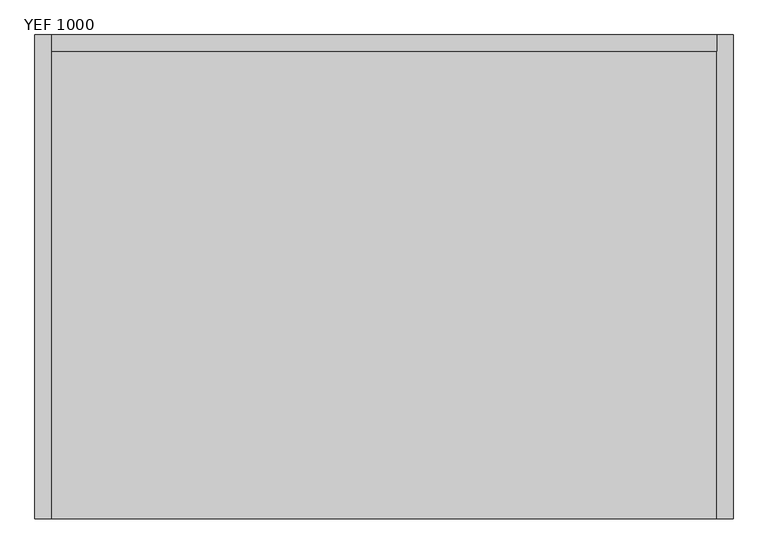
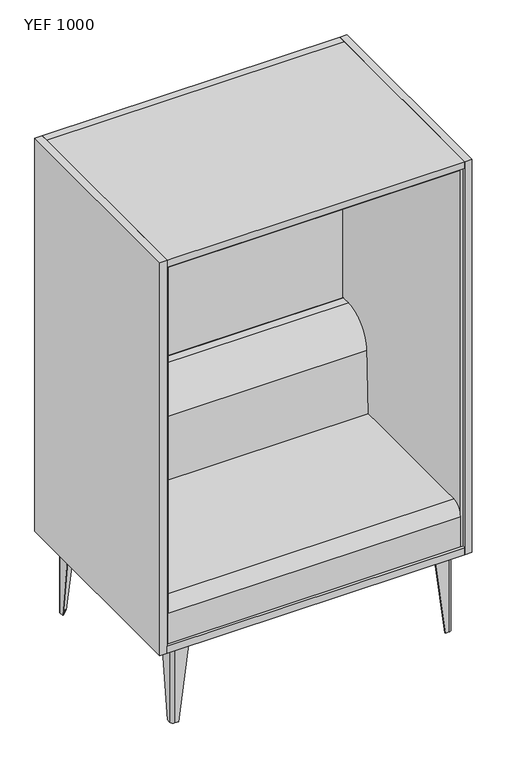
"""IFC4 building model written with IfcOpenShell, lengths in millimetres: furniture geometry, Mobiliário_Mobiliário de Escritório_LinhaYoung_Sofa Enclosure Fechado (Aço) - YEF_Marelli : YEF 1000."""

from ifc_helpers import new_model, si_unit, point, frame, frame_2d, origin, origin_with_axes, place, context, project, spatial, polyline, circle_curve, trimmed, segment, composite_curve, outline, extrude, source, transform, mapped, element, save
from ifc_brep_helpers import plane_surface, cylinder_surface, revolved_surface, advanced_brep


def yef_1000_8515219d(model_context):
    return source(origin(), model_context, "Body", "SolidModel", [
        advanced_brep(
        [(20.0, 75.0, 280.0), (20.0, 25.0, 280.0), (30.0, 15.0, 280.0), (80.0, 15.0, 280.0), (80.0, 18.0, 280.0), (30.0, 18.0, 280.0), (23.0, 25.0, 280.0), (23.0, 75.0, 280.0), (20.0, 39.0, 0.0), (23.0, 39.0, 0.0), (23.0, 25.0, 0.0), (30.0, 18.0, 0.0), (44.0, 18.0, 0.0), (44.0, 15.0, 0.0), (30.0, 15.0, 0.0), (20.0, 25.0, 0.0)],
        [
            (0, 1),
            (1, 2, circle_curve(frame((30.0, 25.0, 280.0), z_axis=(0.0, 0.0, 1.0), x_axis=(0.0, -1.0, 0.0)), 10.0)),
            (2, 3),
            (3, 4),
            (4, 5),
            (5, 6, circle_curve(frame((30.0, 25.0, 280.0), z_axis=(0.0, 0.0, -1.0), x_axis=(-1.0, 0.0, 0.0)), 7.0)),
            (6, 7),
            (7, 0),
            (8, 9),
            (9, 10),
            (10, 11, circle_curve(frame((30.0, 25.0, 0.0), z_axis=(0.0, 0.0, 1.0), x_axis=(-1.0, 0.0, 0.0)), 7.0)),
            (11, 12),
            (12, 13),
            (13, 14),
            (14, 15, circle_curve(frame((30.0, 25.0, 0.0), z_axis=(0.0, 0.0, -1.0), x_axis=(0.0, -1.0, 0.0)), 10.0)),
            (15, 8),
            (15, 1),
            (0, 8),
            (14, 2),
            (13, 3),
            (12, 4),
            (11, 5),
            (10, 6),
            (9, 7),
        ],
        [
            plane_surface(frame((38.25, 33.25, 280.0), z_axis=(0.0, 0.0, 1.0), x_axis=(0.0, -1.0, 0.0))),
            plane_surface(frame((29.25, 24.25, 0.0), z_axis=(0.0, 0.0, -1.0), x_axis=(0.0, -1.0, 0.0))),
            plane_surface(frame((20.0, 32.0, 0.0), z_axis=(-1.0, 0.0, 0.0), x_axis=(0.0, -1.0, 0.0))),
            cylinder_surface(frame((30.0, 25.0, 0.0), z_axis=(0.0, 0.0, 1.0), x_axis=(0.0, -1.0, 0.0)), 10.0),
            plane_surface(frame((37.0, 15.0, 0.0), z_axis=(0.0, -1.0, 0.0), x_axis=(1.0, 0.0, 0.0))),
            plane_surface(frame((44.0, 16.5, 0.0), z_axis=(0.9918357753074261, 0.0, -0.12752174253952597), x_axis=(0.0, 1.0, 0.0))),
            plane_surface(frame((37.0, 18.0, 0.0), z_axis=(0.0, 1.0, 0.0), x_axis=(-1.0, 0.0, 0.0))),
            revolved_surface(polyline([(23.0, 25.0, 280.0), (23.0, 25.0, 0.0)]), (30.0, 25.0, 0.0), (0.0, 0.0, 1.0)),
            plane_surface(frame((23.0, 32.0, 0.0), z_axis=(1.0, 0.0, 0.0), x_axis=(0.0, 1.0, 0.0))),
            plane_surface(frame((21.5, 39.0, 0.0), z_axis=(0.0, 0.9918357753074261, -0.12752174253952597), x_axis=(-1.0, 0.0, 0.0))),
        ],
        [
            (0, [[1, 2, 3, 4, 5, 6, 7, 8]]),
            (1, [[9, 10, 11, 12, 13, 14, 15, 16]]),
            (2, [[-16, 17, -1, 18]]),
            (3, [[-15, 19, -2, -17]]),
            (4, [[-14, 20, -3, -19]]),
            (5, [[-13, 21, -4, -20]]),
            (6, [[-12, 22, -5, -21]]),
            (7, [[-11, 23, -6, -22]]),
            (8, [[-10, 24, -7, -23]]),
            (9, [[-9, -18, -8, -24]]),
        ],
    ),
        advanced_brep(
        [(980.0, 75.0, 280.0), (977.0, 75.0, 280.0), (977.0, 25.0, 280.0), (970.0, 18.0, 280.0), (920.0, 18.0, 280.0), (920.0, 15.0, 280.0), (970.0, 15.0, 280.0), (980.0, 25.0, 280.0), (980.0, 39.0, 0.0), (980.0, 25.0, 0.0), (970.0, 15.0, 0.0), (956.0, 15.0, 0.0), (956.0, 18.0, 0.0), (970.0, 18.0, 0.0), (977.0, 25.0, 0.0), (977.0, 39.0, 0.0)],
        [
            (0, 1),
            (1, 2),
            (2, 3, circle_curve(frame((970.0, 25.0, 280.0), z_axis=(0.0, 0.0, -1.0), x_axis=(0.0, -1.0, 0.0)), 7.0)),
            (3, 4),
            (4, 5),
            (5, 6),
            (6, 7, circle_curve(frame((970.0, 25.0, 280.0), z_axis=(0.0, 0.0, 1.0), x_axis=(1.0, 0.0, 0.0)), 10.0)),
            (7, 0),
            (8, 9),
            (9, 10, circle_curve(frame((970.0, 25.0, 0.0), z_axis=(0.0, 0.0, -1.0), x_axis=(1.0, 0.0, 0.0)), 10.0)),
            (10, 11),
            (11, 12),
            (12, 13),
            (13, 14, circle_curve(frame((970.0, 25.0, 0.0), z_axis=(0.0, 0.0, 1.0), x_axis=(0.0, -1.0, 0.0)), 7.0)),
            (14, 15),
            (15, 8),
            (8, 0),
            (7, 9),
            (6, 10),
            (5, 11),
            (4, 12),
            (3, 13),
            (2, 14),
            (1, 15),
        ],
        [
            plane_surface(frame((961.75, 33.25, 280.0), z_axis=(0.0, 0.0, 1.0), x_axis=(-1.0, 0.0, 0.0))),
            plane_surface(frame((970.75, 24.25, 0.0), z_axis=(0.0, 0.0, -1.0), x_axis=(-1.0, 0.0, 0.0))),
            plane_surface(frame((980.0, 32.0, 0.0), z_axis=(1.0, 0.0, 0.0), x_axis=(0.0, 1.0, 0.0))),
            cylinder_surface(frame((970.0, 25.0, 0.0), z_axis=(0.0, 0.0, 1.0), x_axis=(1.0, 0.0, 0.0)), 10.0),
            plane_surface(frame((963.0, 15.0, 0.0), z_axis=(0.0, -1.0, 0.0), x_axis=(1.0, 0.0, 0.0))),
            plane_surface(frame((956.0, 16.5, 0.0), z_axis=(-0.9918357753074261, 0.0, -0.127521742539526), x_axis=(0.0, -1.0, 0.0))),
            plane_surface(frame((963.0, 18.0, 0.0), z_axis=(0.0, 1.0, 0.0), x_axis=(-1.0, 0.0, 0.0))),
            revolved_surface(polyline([(970.0, 18.0, 280.0), (970.0, 18.0, 0.0)]), (970.0, 25.0, 0.0), (0.0, 0.0, 1.0)),
            plane_surface(frame((977.0, 32.0, 0.0), z_axis=(-1.0, 0.0, 0.0), x_axis=(0.0, -1.0, 0.0))),
            plane_surface(frame((978.5, 39.0, 0.0), z_axis=(0.0, 0.9918357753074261, -0.12752174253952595), x_axis=(-1.0, 0.0, 0.0))),
        ],
        [
            (0, [[1, 2, 3, 4, 5, 6, 7, 8]]),
            (1, [[9, 10, 11, 12, 13, 14, 15, 16]]),
            (2, [[-9, 17, -8, 18]]),
            (3, [[-10, -18, -7, 19]]),
            (4, [[-11, -19, -6, 20]]),
            (5, [[-12, -20, -5, 21]]),
            (6, [[-13, -21, -4, 22]]),
            (7, [[-14, -22, -3, 23]]),
            (8, [[-15, -23, -2, 24]]),
            (9, [[-16, -24, -1, -17]]),
        ],
    ),
        advanced_brep(
        [(20.0, 625.0, 280.0), (23.0, 625.0, 280.0), (23.0, 675.0, 280.0), (30.0, 682.0, 280.0), (80.0, 682.0, 280.0), (80.0, 685.0, 280.0), (30.0, 685.0, 280.0), (20.0, 675.0, 280.0), (20.0, 661.0, 0.0), (20.0, 675.0, 0.0), (30.0, 685.0, 0.0), (44.0, 685.0, 0.0), (44.0, 682.0, 0.0), (30.0, 682.0, 0.0), (23.0, 675.0, 0.0), (23.0, 661.0, 0.0)],
        [
            (0, 1),
            (1, 2),
            (2, 3, circle_curve(frame((30.0, 675.0, 280.0), z_axis=(0.0, 0.0, -1.0), x_axis=(0.0, 1.0, 0.0)), 7.0)),
            (3, 4),
            (4, 5),
            (5, 6),
            (6, 7, circle_curve(frame((30.0, 675.0, 280.0), z_axis=(0.0, 0.0, 1.0), x_axis=(-1.0, 0.0, 0.0)), 10.0)),
            (7, 0),
            (8, 9),
            (9, 10, circle_curve(frame((30.0, 675.0, 0.0), z_axis=(0.0, 0.0, -1.0), x_axis=(-1.0, 0.0, 0.0)), 10.0)),
            (10, 11),
            (11, 12),
            (12, 13),
            (13, 14, circle_curve(frame((30.0, 675.0, 0.0), z_axis=(0.0, 0.0, 1.0), x_axis=(0.0, 1.0, 0.0)), 7.0)),
            (14, 15),
            (15, 8),
            (8, 0),
            (7, 9),
            (6, 10),
            (5, 11),
            (4, 12),
            (3, 13),
            (2, 14),
            (1, 15),
        ],
        [
            plane_surface(frame((38.25, 666.75, 280.0), z_axis=(0.0, 0.0, 1.0), x_axis=(1.0, 0.0, 0.0))),
            plane_surface(frame((29.25, 675.75, 0.0), z_axis=(0.0, 0.0, -1.0), x_axis=(1.0, 0.0, 0.0))),
            plane_surface(frame((20.0, 668.0, 0.0), z_axis=(-1.0, 0.0, 0.0), x_axis=(0.0, -1.0, 0.0))),
            cylinder_surface(frame((30.0, 675.0, 0.0), z_axis=(0.0, 0.0, 1.0), x_axis=(-1.0, 0.0, 0.0)), 10.0),
            plane_surface(frame((37.0, 685.0, 0.0), z_axis=(0.0, 1.0, 0.0), x_axis=(-1.0, 0.0, 0.0))),
            plane_surface(frame((44.0, 683.5, 0.0), z_axis=(0.9918357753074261, 0.0, -0.12752174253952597), x_axis=(0.0, 1.0, 0.0))),
            plane_surface(frame((37.0, 682.0, 0.0), z_axis=(0.0, -1.0, 0.0), x_axis=(1.0, 0.0, 0.0))),
            revolved_surface(polyline([(30.0, 682.0, 280.0), (30.0, 682.0, 0.0)]), (30.0, 675.0, 0.0), (0.0, 0.0, 1.0)),
            plane_surface(frame((23.0, 668.0, 0.0), z_axis=(1.0, 0.0, 0.0), x_axis=(0.0, 1.0, 0.0))),
            plane_surface(frame((21.5, 661.0, 0.0), z_axis=(0.0, -0.9918357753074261, -0.127521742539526), x_axis=(1.0, 0.0, 0.0))),
        ],
        [
            (0, [[1, 2, 3, 4, 5, 6, 7, 8]]),
            (1, [[9, 10, 11, 12, 13, 14, 15, 16]]),
            (2, [[-9, 17, -8, 18]]),
            (3, [[-10, -18, -7, 19]]),
            (4, [[-11, -19, -6, 20]]),
            (5, [[-12, -20, -5, 21]]),
            (6, [[-13, -21, -4, 22]]),
            (7, [[-14, -22, -3, 23]]),
            (8, [[-15, -23, -2, 24]]),
            (9, [[-16, -24, -1, -17]]),
        ],
    ),
        advanced_brep(
        [(980.0, 625.0, 280.0), (980.0, 675.0, 280.0), (970.0, 685.0, 280.0), (920.0, 685.0, 280.0), (920.0, 682.0, 280.0), (970.0, 682.0, 280.0), (977.0, 675.0, 280.0), (977.0, 625.0, 280.0), (980.0, 661.0, 0.0), (977.0, 661.0, 0.0), (977.0, 675.0, 0.0), (970.0, 682.0, 0.0), (956.0, 682.0, 0.0), (956.0, 685.0, 0.0), (970.0, 685.0, 0.0), (980.0, 675.0, 0.0)],
        [
            (0, 1),
            (1, 2, circle_curve(frame((970.0, 675.0, 280.0), z_axis=(0.0, 0.0, 1.0), x_axis=(0.0, 1.0, 0.0)), 10.0)),
            (2, 3),
            (3, 4),
            (4, 5),
            (5, 6, circle_curve(frame((970.0, 675.0, 280.0), z_axis=(0.0, 0.0, -1.0), x_axis=(1.0, 0.0, 0.0)), 7.0)),
            (6, 7),
            (7, 0),
            (8, 9),
            (9, 10),
            (10, 11, circle_curve(frame((970.0, 675.0, 0.0), z_axis=(0.0, 0.0, 1.0), x_axis=(1.0, 0.0, 0.0)), 7.0)),
            (11, 12),
            (12, 13),
            (13, 14),
            (14, 15, circle_curve(frame((970.0, 675.0, 0.0), z_axis=(0.0, 0.0, -1.0), x_axis=(0.0, 1.0, 0.0)), 10.0)),
            (15, 8),
            (15, 1),
            (0, 8),
            (14, 2),
            (13, 3),
            (12, 4),
            (11, 5),
            (10, 6),
            (9, 7),
        ],
        [
            plane_surface(frame((961.75, 666.75, 280.0), z_axis=(0.0, 0.0, 1.0), x_axis=(0.0, 1.0, 0.0))),
            plane_surface(frame((970.75, 675.75, 0.0), z_axis=(0.0, 0.0, -1.0), x_axis=(0.0, 1.0, 0.0))),
            plane_surface(frame((980.0, 668.0, 0.0), z_axis=(1.0, 0.0, 0.0), x_axis=(0.0, 1.0, 0.0))),
            cylinder_surface(frame((970.0, 675.0, 0.0), z_axis=(0.0, 0.0, 1.0), x_axis=(0.0, 1.0, 0.0)), 10.0),
            plane_surface(frame((963.0, 685.0, 0.0), z_axis=(0.0, 1.0, 0.0), x_axis=(-1.0, 0.0, 0.0))),
            plane_surface(frame((956.0, 683.5, 0.0), z_axis=(-0.9918357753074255, 0.0, -0.12752174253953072), x_axis=(0.0, -1.0, 0.0))),
            plane_surface(frame((963.0, 682.0, 0.0), z_axis=(0.0, -1.0, 0.0), x_axis=(1.0, 0.0, 0.0))),
            revolved_surface(polyline([(977.0, 675.0, 280.0), (977.0, 675.0, 0.0)]), (970.0, 675.0, 0.0), (0.0, 0.0, 1.0)),
            plane_surface(frame((977.0, 668.0, 0.0), z_axis=(-1.0, 0.0, 0.0), x_axis=(0.0, -1.0, 0.0))),
            plane_surface(frame((978.5, 661.0, 0.0), z_axis=(0.0, -0.9918357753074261, -0.127521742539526), x_axis=(1.0, 0.0, 0.0))),
        ],
        [
            (0, [[1, 2, 3, 4, 5, 6, 7, 8]]),
            (1, [[9, 10, 11, 12, 13, 14, 15, 16]]),
            (2, [[-16, 17, -1, 18]]),
            (3, [[-15, 19, -2, -17]]),
            (4, [[-14, 20, -3, -19]]),
            (5, [[-13, 21, -4, -20]]),
            (6, [[-12, 22, -5, -21]]),
            (7, [[-11, 23, -6, -22]]),
            (8, [[-10, 24, -7, -23]]),
            (9, [[-9, -18, -8, -24]]),
        ],
    ),
        extrude(outline(composite_curve([segment(polyline([(23.0, 39.0), (44.0, 18.0), (30.0, 18.0)]), True, "CONTINUOUS"), segment(trimmed(circle_curve(frame_2d((30.0, 25.0)), 7.0), [point((30.0, 18.0))], [point((23.0, 25.0))], False, "CARTESIAN"), True, "CONTINUOUS"), segment(polyline([(23.0, 25.0), (23.0, 39.0)]), True, "CONTINUOUS")], self_intersect=False)), origin_with_axes(), (0.0, 0.0, 1.0), 1.0),
        extrude(outline(composite_curve([segment(polyline([(23.0, 661.0), (23.0, 675.0)]), True, "CONTINUOUS"), segment(trimmed(circle_curve(frame_2d((30.0, 675.0)), 7.0), [point((23.0, 675.0))], [point((30.0, 682.0))], False, "CARTESIAN"), True, "CONTINUOUS"), segment(polyline([(30.0, 682.0), (44.0, 682.0), (23.0, 661.0)]), True, "CONTINUOUS")], self_intersect=False)), origin_with_axes(), (0.0, 0.0, 1.0), 1.0),
        extrude(outline(composite_curve([segment(polyline([(977.0, 39.0), (977.0, 25.0)]), True, "CONTINUOUS"), segment(trimmed(circle_curve(frame_2d((970.0, 25.0)), 7.0), [point((977.0, 25.0))], [point((970.0, 18.0))], False, "CARTESIAN"), True, "CONTINUOUS"), segment(polyline([(970.0, 18.0), (956.0, 18.0), (977.0, 39.0)]), True, "CONTINUOUS")], self_intersect=False)), origin_with_axes(), (0.0, 0.0, 1.0), 1.0),
        extrude(outline(composite_curve([segment(polyline([(977.0, 661.0), (956.0, 682.0), (970.0, 682.0)]), True, "CONTINUOUS"), segment(trimmed(circle_curve(frame_2d((970.0, 675.0)), 7.0), [point((970.0, 682.0))], [point((977.0, 675.0))], False, "CARTESIAN"), True, "CONTINUOUS"), segment(polyline([(977.0, 675.0), (977.0, 661.0)]), True, "CONTINUOUS")], self_intersect=False)), origin_with_axes(), (0.0, 0.0, 1.0), 1.0),
        extrude(outline(composite_curve([segment(trimmed(circle_curve(frame_2d((30.0, 25.0)), 7.0), [point((30.0, 18.0))], [point((23.0, 25.0))], False, "CARTESIAN"), True, "CONTINUOUS"), segment(polyline([(23.0, 25.0), (23.0, 93.0)]), True, "CONTINUOUS"), segment(trimmed(circle_curve(frame_2d((28.0, 93.0)), 5.0), [point((23.0, 93.0))], [point((28.0, 98.0))], False, "CARTESIAN"), True, "CONTINUOUS"), segment(polyline([(28.0, 98.0), (51.9545624, 98.0)]), True, "CONTINUOUS"), segment(trimmed(circle_curve(frame_2d((52.6241051, 89.931755)), 8.0959783), [point((51.9545624, 98.0))], [point((58.520382, 95.479618))], False, "CARTESIAN"), True, "CONTINUOUS"), segment(polyline([(58.520382, 95.479618), (100.479618, 53.520382)]), True, "CONTINUOUS"), segment(trimmed(circle_curve(frame_2d((94.931755, 47.6241051)), 8.0959783), [point((100.479618, 53.520382))], [point((103.0, 46.9545624))], False, "CARTESIAN"), True, "CONTINUOUS"), segment(polyline([(103.0, 46.9545624), (103.0, 23.0)]), True, "CONTINUOUS"), segment(trimmed(circle_curve(frame_2d((98.0, 23.0)), 5.0), [point((103.0, 23.0))], [point((98.0, 18.0))], False, "CARTESIAN"), True, "CONTINUOUS"), segment(polyline([(98.0, 18.0), (30.0, 18.0)]), True, "CONTINUOUS")], self_intersect=False)), frame((0.0, 0.0, 279.0), z_axis=(0.0, 0.0, 1.0), x_axis=(1.0, 0.0, 0.0)), (0.0, 0.0, 1.0), 1.0),
        extrude(outline(composite_curve([segment(polyline([(30.0, 682.0), (98.0, 682.0)]), True, "CONTINUOUS"), segment(trimmed(circle_curve(frame_2d((98.0, 677.0)), 5.0), [point((98.0, 682.0))], [point((103.0, 677.0))], False, "CARTESIAN"), True, "CONTINUOUS"), segment(polyline([(103.0, 677.0), (103.0, 653.0454376)]), True, "CONTINUOUS"), segment(trimmed(circle_curve(frame_2d((94.931755, 652.3758949)), 8.0959783), [point((103.0, 653.0454376))], [point((100.479618, 646.479618))], False, "CARTESIAN"), True, "CONTINUOUS"), segment(polyline([(100.479618, 646.479618), (58.520382, 604.520382)]), True, "CONTINUOUS"), segment(trimmed(circle_curve(frame_2d((52.6241051, 610.068245)), 8.0959783), [point((58.520382, 604.520382))], [point((51.9545624, 602.0))], False, "CARTESIAN"), True, "CONTINUOUS"), segment(polyline([(51.9545624, 602.0), (28.0, 602.0)]), True, "CONTINUOUS"), segment(trimmed(circle_curve(frame_2d((28.0, 607.0)), 5.0), [point((28.0, 602.0))], [point((23.0, 607.0))], False, "CARTESIAN"), True, "CONTINUOUS"), segment(polyline([(23.0, 607.0), (23.0, 675.0)]), True, "CONTINUOUS"), segment(trimmed(circle_curve(frame_2d((30.0, 675.0)), 7.0), [point((23.0, 675.0))], [point((30.0, 682.0))], False, "CARTESIAN"), True, "CONTINUOUS")], self_intersect=False)), frame((0.0, 0.0, 279.0), z_axis=(0.0, 0.0, 1.0), x_axis=(1.0, 0.0, 0.0)), (0.0, 0.0, 1.0), 1.0),
        extrude(outline(composite_curve([segment(polyline([(970.0, 18.0), (902.0, 18.0)]), True, "CONTINUOUS"), segment(trimmed(circle_curve(frame_2d((902.0, 23.0)), 5.0), [point((902.0, 18.0))], [point((897.0, 23.0))], False, "CARTESIAN"), True, "CONTINUOUS"), segment(polyline([(897.0, 23.0), (897.0, 46.9545624)]), True, "CONTINUOUS"), segment(trimmed(circle_curve(frame_2d((905.068245, 47.6241051)), 8.0959783), [point((897.0, 46.9545624))], [point((899.520382, 53.520382))], False, "CARTESIAN"), True, "CONTINUOUS"), segment(polyline([(899.520382, 53.520382), (941.479618, 95.479618)]), True, "CONTINUOUS"), segment(trimmed(circle_curve(frame_2d((947.3758949, 89.931755)), 8.0959783), [point((941.479618, 95.479618))], [point((948.0454376, 98.0))], False, "CARTESIAN"), True, "CONTINUOUS"), segment(polyline([(948.0454376, 98.0), (972.0, 98.0)]), True, "CONTINUOUS"), segment(trimmed(circle_curve(frame_2d((972.0, 93.0)), 5.0), [point((972.0, 98.0))], [point((977.0, 93.0))], False, "CARTESIAN"), True, "CONTINUOUS"), segment(polyline([(977.0, 93.0), (977.0, 25.0)]), True, "CONTINUOUS"), segment(trimmed(circle_curve(frame_2d((970.0, 25.0)), 7.0), [point((977.0, 25.0))], [point((970.0, 18.0))], False, "CARTESIAN"), True, "CONTINUOUS")], self_intersect=False)), frame((0.0, 0.0, 279.0), z_axis=(0.0, 0.0, 1.0), x_axis=(1.0, 0.0, 0.0)), (0.0, 0.0, 1.0), 1.0),
        extrude(outline(composite_curve([segment(trimmed(circle_curve(frame_2d((970.0, 675.0)), 7.0), [point((970.0, 682.0))], [point((977.0, 675.0))], False, "CARTESIAN"), True, "CONTINUOUS"), segment(polyline([(977.0, 675.0), (977.0, 607.0)]), True, "CONTINUOUS"), segment(trimmed(circle_curve(frame_2d((972.0, 607.0)), 5.0), [point((977.0, 607.0))], [point((972.0, 602.0))], False, "CARTESIAN"), True, "CONTINUOUS"), segment(polyline([(972.0, 602.0), (948.0454376, 602.0)]), True, "CONTINUOUS"), segment(trimmed(circle_curve(frame_2d((947.3758949, 610.068245)), 8.0959783), [point((948.0454376, 602.0))], [point((941.479618, 604.520382))], False, "CARTESIAN"), True, "CONTINUOUS"), segment(polyline([(941.479618, 604.520382), (899.520382, 646.479618)]), True, "CONTINUOUS"), segment(trimmed(circle_curve(frame_2d((905.068245, 652.3758949)), 8.0959783), [point((899.520382, 646.479618))], [point((897.0, 653.0454376))], False, "CARTESIAN"), True, "CONTINUOUS"), segment(polyline([(897.0, 653.0454376), (897.0, 677.0)]), True, "CONTINUOUS"), segment(trimmed(circle_curve(frame_2d((902.0, 677.0)), 5.0), [point((897.0, 677.0))], [point((902.0, 682.0))], False, "CARTESIAN"), True, "CONTINUOUS"), segment(polyline([(902.0, 682.0), (970.0, 682.0)]), True, "CONTINUOUS")], self_intersect=False)), frame((0.0, 0.0, 279.0), z_axis=(0.0, 0.0, 1.0), x_axis=(1.0, 0.0, 0.0)), (0.0, 0.0, 1.0), 1.0),
        extrude(outline(composite_curve([segment(polyline([(547.0, 455.0), (547.0, 305.0), (0.0, 305.0), (0.0, 415.0)]), True, "CONTINUOUS"), segment(trimmed(circle_curve(frame_2d((40.0, 415.0)), 40.0), [point((0.0, 415.0))], [point((40.0, 455.0))], False, "CARTESIAN"), True, "CONTINUOUS"), segment(polyline([(40.0, 455.0), (547.0, 455.0)]), True, "CONTINUOUS")], self_intersect=False)), frame((0.0, 0.0, 0.0), z_axis=(1.0, 0.0, 0.0), x_axis=(0.0, 1.0, 0.0)), (0.0, 0.0, 1.0), 1000.0),
        extrude(outline(polyline([(1009.0, -9.0), (-9.0, -9.0), (-9.0, 706.0), (1009.0, 706.0), (1009.0, -9.0)])), frame((0.0, 0.0, 280.0), z_axis=(0.0, 0.0, 1.0), x_axis=(1.0, 0.0, 0.0)), (0.0, 0.0, 1.0), 25.0),
        extrude(outline(polyline([(-9.0, 0.0), (-9.0, 706.0), (0.0, 706.0), (0.0, 0.0), (-9.0, 0.0)])), frame((0.0, 0.0, 305.0), z_axis=(0.0, 0.0, 1.0), x_axis=(1.0, 0.0, 0.0)), (0.0, 0.0, 1.0), 1370.0),
        extrude(outline(polyline([(-9.0, -9.0), (-34.0, -9.0), (-34.0, 731.0), (-9.0, 731.0), (-9.0, -9.0)])), frame((0.0, 0.0, 280.0), z_axis=(0.0, 0.0, 1.0), x_axis=(1.0, 0.0, 0.0)), (0.0, 0.0, 1.0), 1420.0),
        extrude(outline(polyline([(1009.0, 706.0), (-9.0, 706.0), (-9.0, 731.0), (1009.0, 731.0), (1009.0, 706.0)])), frame((0.0, 0.0, 280.0), z_axis=(0.0, 0.0, 1.0), x_axis=(1.0, 0.0, 0.0)), (0.0, 0.0, 1.0), 1420.0),
        extrude(outline(polyline([(1009.0, -9.0), (1009.0, 731.0), (1034.0, 731.0), (1034.0, -9.0), (1009.0, -9.0)])), frame((0.0, 0.0, 280.0), z_axis=(0.0, 0.0, 1.0), x_axis=(1.0, 0.0, 0.0)), (0.0, 0.0, 1.0), 1420.0),
        extrude(outline(polyline([(1009.0, 0.0), (1000.0, 0.0), (1000.0, 706.0), (1009.0, 706.0), (1009.0, 0.0)])), frame((0.0, 0.0, 305.0), z_axis=(0.0, 0.0, 1.0), x_axis=(1.0, 0.0, 0.0)), (0.0, 0.0, 1.0), 1370.0),
        extrude(outline(polyline([(1009.0, -9.0), (-9.0, -9.0), (-9.0, 706.0), (1009.0, 706.0), (1009.0, -9.0)])), frame((0.0, 0.0, 1675.0), z_axis=(0.0, 0.0, 1.0), x_axis=(1.0, 0.0, 0.0)), (0.0, 0.0, 1.0), 25.0),
        extrude(outline(polyline([(1000.0, 0.0), (0.0, 0.0), (0.0, 706.0), (1000.0, 706.0), (1000.0, 0.0)])), frame((0.0, 0.0, 1666.0), z_axis=(0.0, 0.0, 1.0), x_axis=(1.0, 0.0, 0.0)), (0.0, 0.0, 1.0), 9.0),
        extrude(outline(polyline([(1000.0, 706.0), (1000.0, 697.0), (0.0, 697.0), (0.0, 706.0), (1000.0, 706.0)])), frame((0.0, 0.0, 305.0), z_axis=(0.0, 0.0, 1.0), x_axis=(1.0, 0.0, 0.0)), (0.0, 0.0, 1.0), 1361.0),
        extrude(outline(composite_curve([segment(polyline([(697.0, 781.802426), (697.0, 305.0), (547.0, 305.0), (547.0, 455.0), (555.2568376, 679.223651)]), True, "CONTINUOUS"), segment(trimmed(circle_curve(frame_2d((665.0, 675.1824561)), 109.8175439), [point((555.2568376, 679.223651))], [point((665.0, 785.0))], False, "CARTESIAN"), True, "CONTINUOUS"), segment(polyline([(665.0, 785.0), (693.802426, 785.0)]), True, "CONTINUOUS"), segment(trimmed(circle_curve(frame_2d((693.802426, 781.802426)), 3.197574), [point((693.802426, 785.0))], [point((697.0, 781.802426))], False, "CARTESIAN"), True, "CONTINUOUS")], self_intersect=False)), frame((0.0, 0.0, 0.0), z_axis=(1.0, 0.0, 0.0), x_axis=(0.0, 1.0, 0.0)), (0.0, 0.0, 1.0), 1000.0),
    ])


if __name__ == "__main__":
    model = new_model("IFC4")
    model_context = context("Model", 3, world=origin())
    ifc_project = project(units=[si_unit("LENGTHUNIT", "METRE", prefix="MILLI")], contexts=[model_context])
    site = spatial("IfcSite", under=ifc_project)
    building = spatial("IfcBuilding", under=site)
    placement = place(None, origin())
    yef_1000_shape = yef_1000_8515219d(model_context)
    element("IfcFurniture", 1, ObjectType="Mobiliário_Mobiliário de Escritório_LinhaYoung_Sofa Enclosure Fechado (Aço) - YEF_Marelli : YEF 1000", at=placement, inside=building, context=model_context, shape_type="MappedRepresentation", body=[
        mapped(yef_1000_shape, transform((0.0, 0.0, 0.0), x_axis=(1.0, 0.0, 0.0), y_axis=(0.0, 1.0, 0.0), z_axis=(0.0, 0.0, 1.0))),
    ])
    save(model, "model.ifc")
